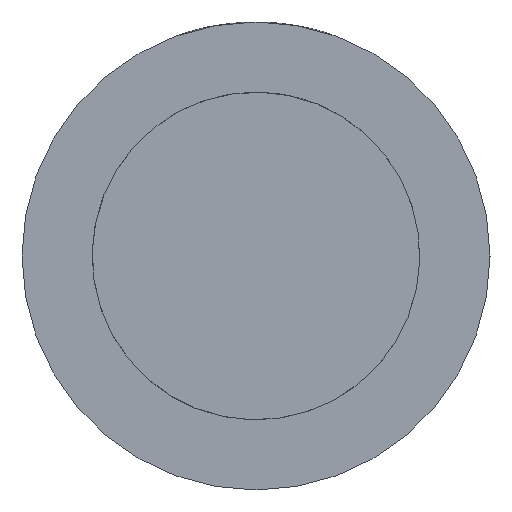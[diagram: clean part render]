
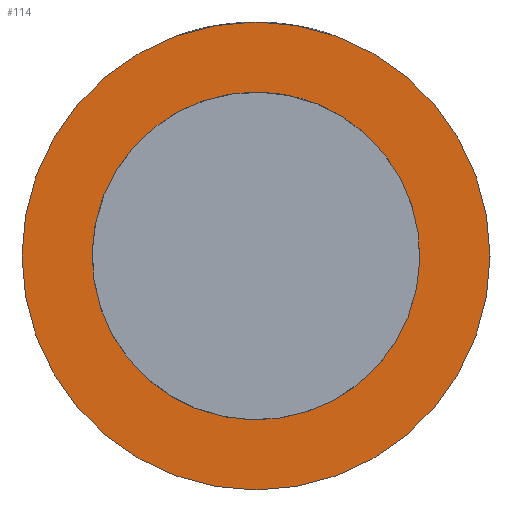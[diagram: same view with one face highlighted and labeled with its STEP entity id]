
A CAD part, left-side view. The second image highlights one B-rep face of the part: STEP entity #114.
In plain terms, the highlighted planar face has unit normal (-1, 0, 0).
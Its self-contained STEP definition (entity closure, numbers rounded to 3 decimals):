
#114 = ADVANCED_FACE( '', ( #156, #157 ), #158, .T. );
#156 = FACE_BOUND( '', #179, .T. );
#157 = FACE_OUTER_BOUND( '', #180, .T. );
#158 = PLANE( '', #181 );
#175 = EDGE_CURVE( '', #204, #204, #205, .T. );
#179 = EDGE_LOOP( '', ( #211 ) );
#180 = EDGE_LOOP( '', ( #212 ) );
#181 = AXIS2_PLACEMENT_3D( '', #213, #214, #215 );
#204 = VERTEX_POINT( '', #284 );
#205 = CIRCLE( '', #285, 2. );
#211 = ORIENTED_EDGE( '', *, *, #287, .F. );
#212 = ORIENTED_EDGE( '', *, *, #175, .T. );
#213 = CARTESIAN_POINT( '', ( -24.98, 0., 0. ) );
#214 = DIRECTION( '', ( -1., 0., 0. ) );
#215 = DIRECTION( '', ( 0., 0., 1. ) );
#284 = CARTESIAN_POINT( '', ( -24.98, 2., 0. ) );
#285 = AXIS2_PLACEMENT_3D( '', #301, #302, #303 );
#287 = EDGE_CURVE( '', #304, #304, #305, .T. );
#301 = CARTESIAN_POINT( '', ( -24.98, 0., 0. ) );
#302 = DIRECTION( '', ( -1., 0., 0. ) );
#303 = DIRECTION( '', ( 0., 1., 0. ) );
#304 = VERTEX_POINT( '', #308 );
#305 = CIRCLE( '', #309, 1.4 );
#308 = CARTESIAN_POINT( '', ( -24.98, 0., 1.4 ) );
#309 = AXIS2_PLACEMENT_3D( '', #312, #313, #314 );
#312 = CARTESIAN_POINT( '', ( -24.98, 0., 0. ) );
#313 = DIRECTION( '', ( -1., 0., 0. ) );
#314 = DIRECTION( '', ( 0., 0., 1. ) );
